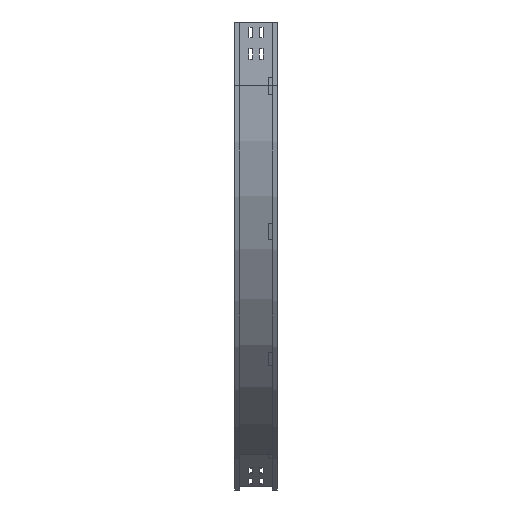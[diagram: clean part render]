
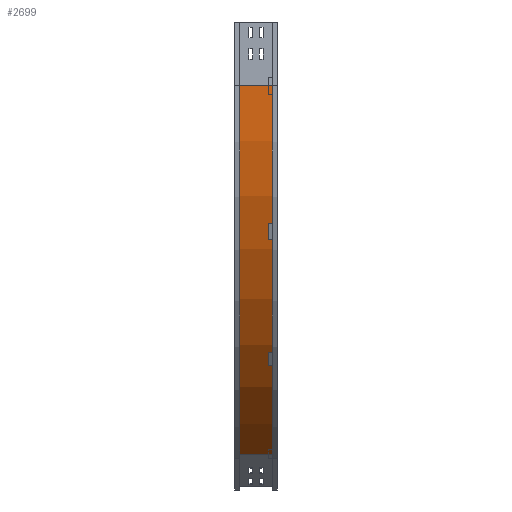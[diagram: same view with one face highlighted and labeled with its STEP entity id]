
A CAD part, left-side view. The second image highlights one B-rep face of the part: STEP entity #2699.
In plain terms, the highlighted cylindrical face has radius 1000 mm (diameter 2000 mm), a partial arc.
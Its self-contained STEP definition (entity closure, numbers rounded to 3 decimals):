
#16 = DIRECTION ( 'NONE',  ( 0., -1., 0. ) ) ;
#57 = CARTESIAN_POINT ( 'NONE',  ( 1009., 88., -150. ) ) ;
#86 = CARTESIAN_POINT ( 'NONE',  ( 509., 12., -1016.025 ) ) ;
#105 = CARTESIAN_POINT ( 'NONE',  ( 1009., 0., -150. ) ) ;
#316 = EDGE_CURVE ( 'NONE', #1999, #540, #1153, .T. ) ;
#440 = CARTESIAN_POINT ( 'NONE',  ( 9., 12., -150. ) ) ;
#490 = VECTOR ( 'NONE', #16, 1000. ) ;
#516 = CYLINDRICAL_SURFACE ( 'NONE', #1734, 1000. ) ;
#540 = VERTEX_POINT ( 'NONE', #3163 ) ;
#788 = CIRCLE ( 'NONE', #4339, 1000. ) ;
#804 = ORIENTED_EDGE ( 'NONE', *, *, #2995, .T. ) ;
#841 = CARTESIAN_POINT ( 'NONE',  ( 509., 88., -1016.025 ) ) ;
#1043 = LINE ( 'NONE', #2440, #490 ) ;
#1133 = VERTEX_POINT ( 'NONE', #86 ) ;
#1150 = AXIS2_PLACEMENT_3D ( 'NONE', #3399, #4388, #2655 ) ;
#1153 = LINE ( 'NONE', #440, #4205 ) ;
#1200 = CARTESIAN_POINT ( 'NONE',  ( 9., 88., -150. ) ) ;
#1462 = DIRECTION ( 'NONE',  ( 0., -1., 0. ) ) ;
#1500 = ORIENTED_EDGE ( 'NONE', *, *, #3309, .T. ) ;
#1550 = ORIENTED_EDGE ( 'NONE', *, *, #2848, .F. ) ;
#1734 = AXIS2_PLACEMENT_3D ( 'NONE', #105, #2606, #3967 ) ;
#1999 = VERTEX_POINT ( 'NONE', #1200 ) ;
#2157 = DIRECTION ( 'NONE',  ( -1., 0., 0. ) ) ;
#2436 = ORIENTED_EDGE ( 'NONE', *, *, #316, .F. ) ;
#2437 = EDGE_LOOP ( 'NONE', ( #1550, #2436, #804, #1500 ) ) ;
#2440 = CARTESIAN_POINT ( 'NONE',  ( 509., 12., -1016.025 ) ) ;
#2606 = DIRECTION ( 'NONE',  ( 0., -1., 0. ) ) ;
#2639 = CIRCLE ( 'NONE', #1150, 1000. ) ;
#2655 = DIRECTION ( 'NONE',  ( -1., 0., 0. ) ) ;
#2699 = ADVANCED_FACE ( 'NONE', ( #3647 ), #516, .T. ) ;
#2732 = VERTEX_POINT ( 'NONE', #841 ) ;
#2848 = EDGE_CURVE ( 'NONE', #540, #1133, #2639, .T. ) ;
#2995 = EDGE_CURVE ( 'NONE', #1999, #2732, #788, .T. ) ;
#3163 = CARTESIAN_POINT ( 'NONE',  ( 9., 12., -150. ) ) ;
#3258 = DIRECTION ( 'NONE',  ( 0., -1., 0. ) ) ;
#3309 = EDGE_CURVE ( 'NONE', #2732, #1133, #1043, .T. ) ;
#3399 = CARTESIAN_POINT ( 'NONE',  ( 1009., 12., -150. ) ) ;
#3647 = FACE_OUTER_BOUND ( 'NONE', #2437, .T. ) ;
#3967 = DIRECTION ( 'NONE',  ( 0., 0., -1. ) ) ;
#4205 = VECTOR ( 'NONE', #3258, 1000. ) ;
#4339 = AXIS2_PLACEMENT_3D ( 'NONE', #57, #1462, #2157 ) ;
#4388 = DIRECTION ( 'NONE',  ( 0., -1., 0. ) ) ;
